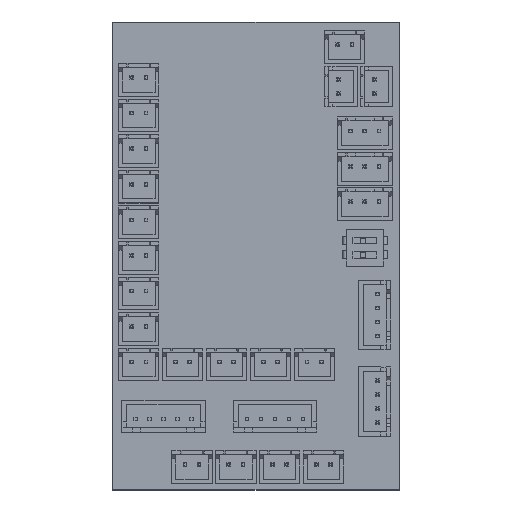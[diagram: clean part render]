
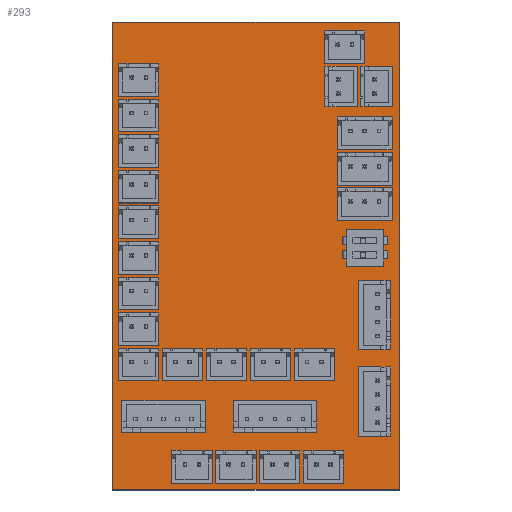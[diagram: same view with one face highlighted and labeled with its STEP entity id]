
A CAD part, top view. The second image highlights one B-rep face of the part: STEP entity #293.
In plain terms, the highlighted planar face has unit normal (0, 0, 1).
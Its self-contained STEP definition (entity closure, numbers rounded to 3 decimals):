
#164 = VERTEX_POINT('',#165);
#165 = CARTESIAN_POINT('',(3.429,15.621,0.411));
#171 = EDGE_CURVE('',#164,#172,#174,.T.);
#172 = VERTEX_POINT('',#173);
#173 = CARTESIAN_POINT('',(54.737,15.621,0.411));
#174 = LINE('',#175,#176);
#175 = CARTESIAN_POINT('',(3.429,15.621,0.411));
#176 = VECTOR('',#177,1.);
#177 = DIRECTION('',(1.,0.,0.));
#202 = EDGE_CURVE('',#172,#203,#205,.T.);
#203 = VERTEX_POINT('',#204);
#204 = CARTESIAN_POINT('',(54.737,99.314,0.411));
#205 = LINE('',#206,#207);
#206 = CARTESIAN_POINT('',(54.737,15.621,0.411));
#207 = VECTOR('',#208,1.);
#208 = DIRECTION('',(0.,1.,0.));
#233 = EDGE_CURVE('',#203,#234,#236,.T.);
#234 = VERTEX_POINT('',#235);
#235 = CARTESIAN_POINT('',(3.429,99.314,0.411));
#236 = LINE('',#237,#238);
#237 = CARTESIAN_POINT('',(54.737,99.314,0.411));
#238 = VECTOR('',#239,1.);
#239 = DIRECTION('',(-1.,0.,0.));
#264 = EDGE_CURVE('',#234,#164,#265,.T.);
#265 = LINE('',#266,#267);
#266 = CARTESIAN_POINT('',(3.429,99.314,0.411));
#267 = VECTOR('',#268,1.);
#268 = DIRECTION('',(0.,-1.,0.));
#293 = ADVANCED_FACE('',(#294),#300,.F.);
#294 = FACE_BOUND('',#295,.T.);
#295 = EDGE_LOOP('',(#296,#297,#298,#299));
#296 = ORIENTED_EDGE('',*,*,#171,.T.);
#297 = ORIENTED_EDGE('',*,*,#202,.T.);
#298 = ORIENTED_EDGE('',*,*,#233,.T.);
#299 = ORIENTED_EDGE('',*,*,#264,.T.);
#300 = PLANE('',#301);
#301 = AXIS2_PLACEMENT_3D('',#302,#303,#304);
#302 = CARTESIAN_POINT('',(3.429,15.621,0.411));
#303 = DIRECTION('',(0.,0.,-1.));
#304 = DIRECTION('',(-1.,0.,0.));
